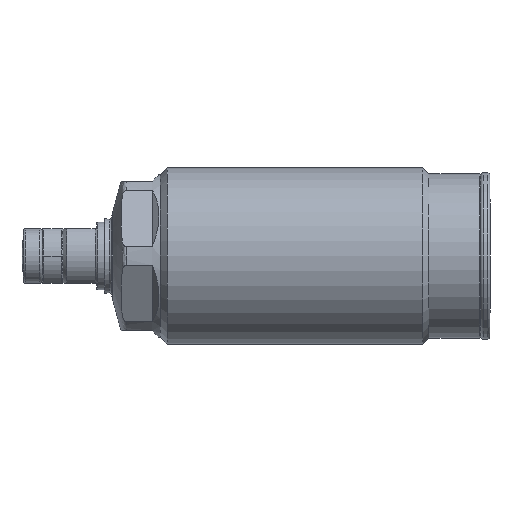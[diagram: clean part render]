
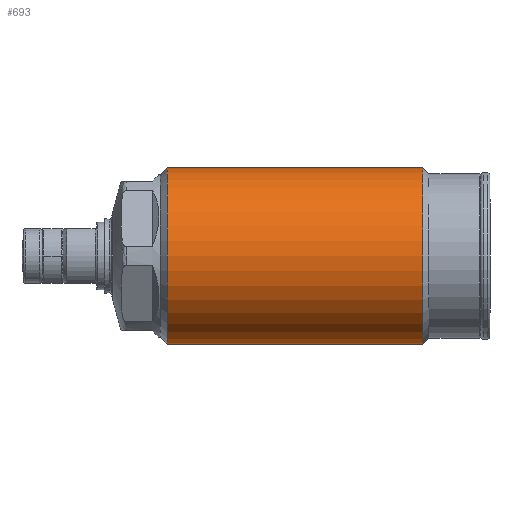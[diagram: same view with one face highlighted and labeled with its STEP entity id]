
A CAD part, left-side view. The second image highlights one B-rep face of the part: STEP entity #693.
In plain terms, the highlighted cylindrical face has radius 13 mm (diameter 26 mm), a partial arc.
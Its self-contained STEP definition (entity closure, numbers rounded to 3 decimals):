
#693=ADVANCED_FACE('',(#966),#775,.T.);
#775=CYLINDRICAL_SURFACE('',#4168,13.);
#966=FACE_OUTER_BOUND('',#1211,.T.);
#1211=EDGE_LOOP('',(#2446,#2447,#2448,#2449));
#1333=LINE('',#6599,#1476);
#1334=LINE('',#6600,#1477);
#1476=VECTOR('',#5013,1.);
#1477=VECTOR('',#5014,1.);
#2446=ORIENTED_EDGE('',*,*,#3191,.F.);
#2447=ORIENTED_EDGE('',*,*,#3345,.T.);
#2448=ORIENTED_EDGE('',*,*,#3192,.T.);
#2449=ORIENTED_EDGE('',*,*,#3346,.F.);
#2756=VERTEX_POINT('',#6591);
#2757=VERTEX_POINT('',#6593);
#2758=VERTEX_POINT('',#6597);
#2759=VERTEX_POINT('',#6598);
#3191=EDGE_CURVE('',#2759,#2757,#1333,.T.);
#3192=EDGE_CURVE('',#2758,#2756,#1334,.T.);
#3345=EDGE_CURVE('',#2759,#2758,#3655,.T.);
#3346=EDGE_CURVE('',#2757,#2756,#3656,.T.);
#3655=CIRCLE('',#4165,13.);
#3656=CIRCLE('',#4167,13.);
#4165=AXIS2_PLACEMENT_3D('',#7168,#5345,#5346);
#4167=AXIS2_PLACEMENT_3D('',#7170,#5349,#5350);
#4168=AXIS2_PLACEMENT_3D('',#7171,#5351,#5352);
#5013=DIRECTION('',(0.,1.,0.));
#5014=DIRECTION('',(0.,1.,0.));
#5345=DIRECTION('',(0.,1.,0.));
#5346=DIRECTION('',(0.,0.,1.));
#5349=DIRECTION('',(0.,1.,0.));
#5350=DIRECTION('',(0.,0.,1.));
#5351=DIRECTION('',(0.,1.,0.));
#5352=DIRECTION('',(0.,0.,-1.));
#6591=CARTESIAN_POINT('',(19.547,51.366,13.));
#6593=CARTESIAN_POINT('',(19.547,51.366,-13.));
#6597=CARTESIAN_POINT('',(19.547,13.666,13.));
#6598=CARTESIAN_POINT('',(19.547,13.666,-13.));
#6599=CARTESIAN_POINT('',(19.547,76.764,-13.));
#6600=CARTESIAN_POINT('',(19.547,76.764,13.));
#7168=CARTESIAN_POINT('',(19.547,13.666,0.));
#7170=CARTESIAN_POINT('',(19.547,51.366,0.));
#7171=CARTESIAN_POINT('',(19.547,76.764,0.));
